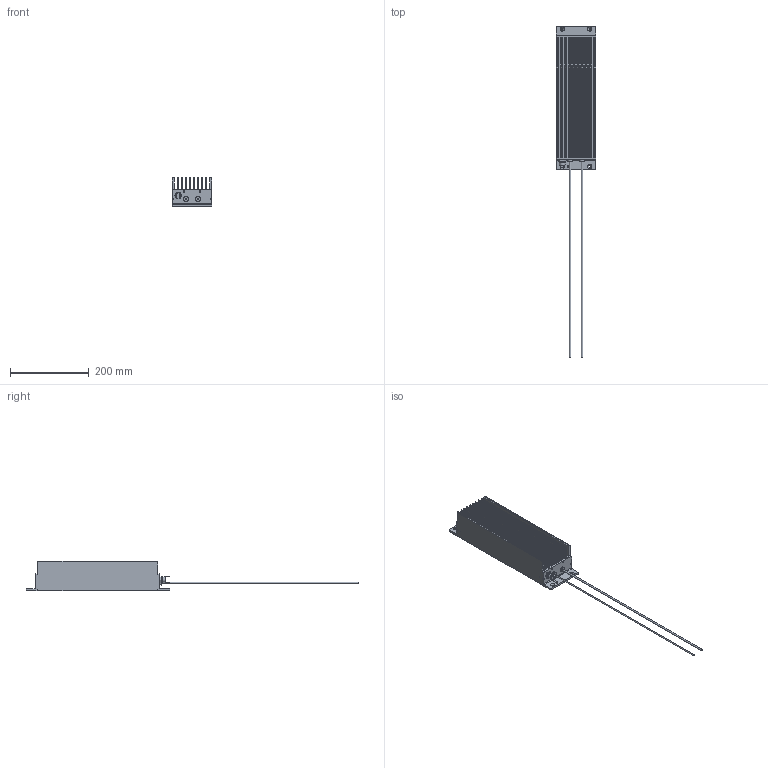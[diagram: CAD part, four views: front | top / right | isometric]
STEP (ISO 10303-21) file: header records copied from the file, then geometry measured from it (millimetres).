
FILE_DESCRIPTION(/* description */ (''),/* implementation_level */ '2;1');
FILE_NAME(/* name */ 'C:\_Vault\Dati\CATALOGO\RDF\RDFT1500.stp',/* time_stamp */ '2014-03-25T14:03:53+01:00',/* author */ ('stefano'),/* organization */ (''),/* preprocessor_version */ 'ST-DEVELOPER v15.2',/* originating_system */ 'Autodesk Inventor 2014',/* authorisation */ '');
FILE_SCHEMA (('AUTOMOTIVE_DESIGN { 1 0 10303 214 3 1 1 }'));
Length unit declared in the file: millimetre
Products named in the file (1): RDFT1500
Bounding box: 100 x 844 x 75 mm (x, y, z)
Volume: 866178.1 mm3; surface area: 428362.1 mm2
Topology: 3 solids, 3 shells, 1267 faces, 3708 edges, 2472 vertices
Faces by surface type: plane 1165, cylinder 89, cone 13
Full cylindrical faces by diameter (mm): 1.8 x2, 2.65 x8, 3.2 x8, 4 x3, 4.917 x1, 5.5 x4, 12 x2, 12.5 x2, 13.6 x1, 14.1 x1, 15.6 x1
Entity records: 42163 total; most frequent: CARTESIAN_POINT 7350, ORIENTED_EDGE 7272, DIRECTION 6358, EDGE_CURVE 3636, LINE 3450, VECTOR 3450, VERTEX_POINT 2446, AXIS2_PLACEMENT_3D 1454
